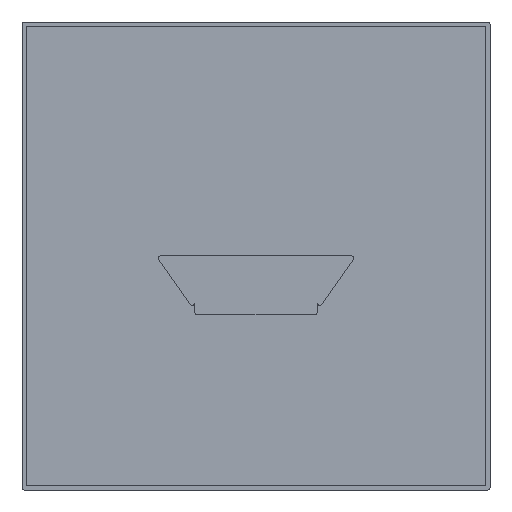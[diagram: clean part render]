
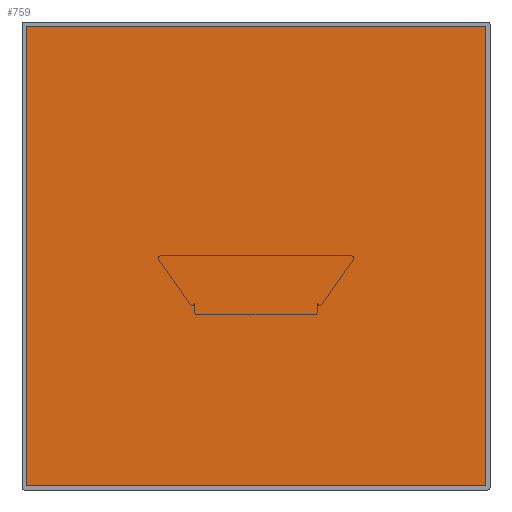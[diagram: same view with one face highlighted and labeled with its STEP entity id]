
A CAD part, front view. The second image highlights one B-rep face of the part: STEP entity #759.
In plain terms, the highlighted planar face has unit normal (0, -1, 0).
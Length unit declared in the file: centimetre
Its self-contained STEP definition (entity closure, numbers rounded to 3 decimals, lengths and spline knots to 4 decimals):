
#61=LINE('',#1283,#117);
#64=LINE('',#1291,#120);
#67=LINE('',#1299,#123);
#70=LINE('',#1306,#126);
#117=VECTOR('',#1060,34.);
#120=VECTOR('',#1069,34.);
#123=VECTOR('',#1078,34.);
#126=VECTOR('',#1087,34.);
#167=PLANE('',#851);
#234=FACE_OUTER_BOUND('',#298,.T.);
#298=EDGE_LOOP('',(#702,#703,#704,#705,#706,#707,#708,#709));
#338=CIRCLE('',#840,0.2);
#339=CIRCLE('',#843,0.2);
#340=CIRCLE('',#846,0.2);
#341=CIRCLE('',#849,0.2);
#405=VERTEX_POINT('',#1276);
#406=VERTEX_POINT('',#1277);
#407=VERTEX_POINT('',#1282);
#408=VERTEX_POINT('',#1286);
#409=VERTEX_POINT('',#1290);
#410=VERTEX_POINT('',#1294);
#411=VERTEX_POINT('',#1298);
#412=VERTEX_POINT('',#1302);
#496=EDGE_CURVE('',#405,#406,#338,.T.);
#499=EDGE_CURVE('',#406,#407,#61,.T.);
#501=EDGE_CURVE('',#407,#408,#339,.T.);
#503=EDGE_CURVE('',#408,#409,#64,.T.);
#505=EDGE_CURVE('',#409,#410,#340,.T.);
#507=EDGE_CURVE('',#410,#411,#67,.T.);
#509=EDGE_CURVE('',#411,#412,#341,.T.);
#511=EDGE_CURVE('',#412,#405,#70,.T.);
#702=ORIENTED_EDGE('',*,*,#511,.T.);
#703=ORIENTED_EDGE('',*,*,#496,.T.);
#704=ORIENTED_EDGE('',*,*,#499,.T.);
#705=ORIENTED_EDGE('',*,*,#501,.T.);
#706=ORIENTED_EDGE('',*,*,#503,.T.);
#707=ORIENTED_EDGE('',*,*,#505,.T.);
#708=ORIENTED_EDGE('',*,*,#507,.T.);
#709=ORIENTED_EDGE('',*,*,#509,.T.);
#759=ADVANCED_FACE('',(#234),#167,.T.);
#840=AXIS2_PLACEMENT_3D('',#1278,#1054,#1055);
#843=AXIS2_PLACEMENT_3D('',#1287,#1064,#1065);
#846=AXIS2_PLACEMENT_3D('',#1295,#1073,#1074);
#849=AXIS2_PLACEMENT_3D('',#1303,#1082,#1083);
#851=AXIS2_PLACEMENT_3D('',#1307,#1088,#1089);
#1054=DIRECTION('center_axis',(0.,-1.,0.));
#1055=DIRECTION('ref_axis',(1.,0.,0.));
#1060=DIRECTION('',(0.,0.,-1.));
#1064=DIRECTION('center_axis',(0.,-1.,0.));
#1065=DIRECTION('ref_axis',(0.,0.,1.));
#1069=DIRECTION('',(1.,0.,0.));
#1073=DIRECTION('center_axis',(0.,-1.,0.));
#1074=DIRECTION('ref_axis',(-1.,0.,0.));
#1078=DIRECTION('',(0.,0.,1.));
#1082=DIRECTION('center_axis',(0.,-1.,0.));
#1083=DIRECTION('ref_axis',(0.,0.,-1.));
#1087=DIRECTION('',(-1.,0.,0.));
#1088=DIRECTION('center_axis',(0.,-1.,0.));
#1089=DIRECTION('ref_axis',(0.,0.,-1.));
#1276=CARTESIAN_POINT('',(-17.,0.,17.2));
#1277=CARTESIAN_POINT('',(-17.2,0.,17.));
#1278=CARTESIAN_POINT('Origin',(-17.,0.,17.));
#1282=CARTESIAN_POINT('',(-17.2,0.,-17.));
#1283=CARTESIAN_POINT('',(-17.2,0.,17.));
#1286=CARTESIAN_POINT('',(-17.,0.,-17.2));
#1287=CARTESIAN_POINT('Origin',(-17.,0.,-17.));
#1290=CARTESIAN_POINT('',(17.,0.,-17.2));
#1291=CARTESIAN_POINT('',(-17.,0.,-17.2));
#1294=CARTESIAN_POINT('',(17.2,0.,-17.));
#1295=CARTESIAN_POINT('Origin',(17.,0.,-17.));
#1298=CARTESIAN_POINT('',(17.2,0.,17.));
#1299=CARTESIAN_POINT('',(17.2,0.,-17.));
#1302=CARTESIAN_POINT('',(17.,0.,17.2));
#1303=CARTESIAN_POINT('Origin',(17.,0.,17.));
#1306=CARTESIAN_POINT('',(17.,0.,17.2));
#1307=CARTESIAN_POINT('Origin',(0.,0.,0.));
